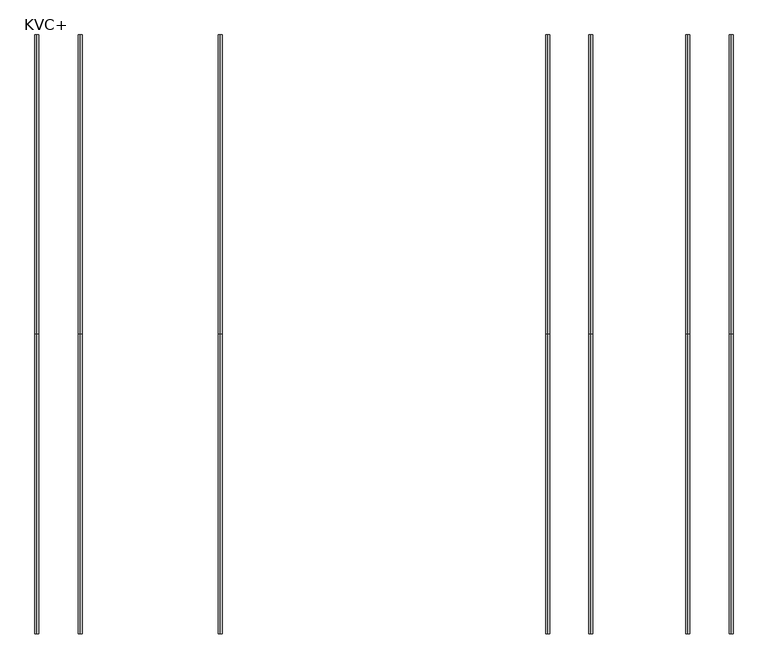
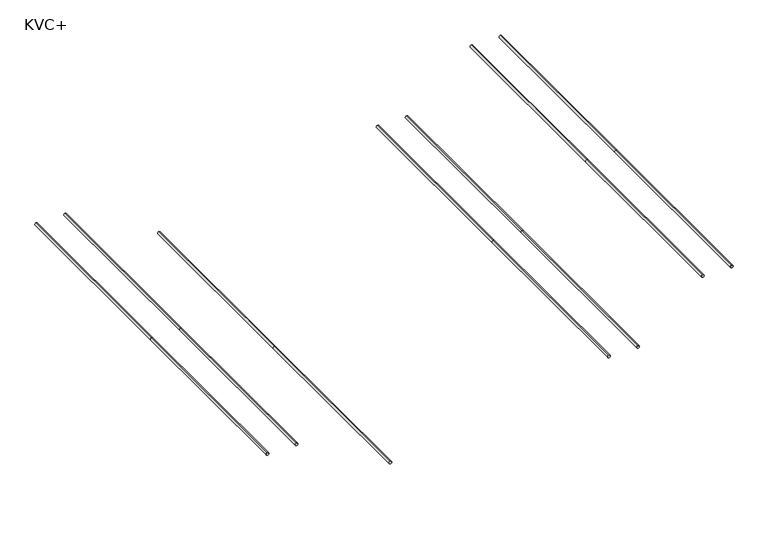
"""IFC4 building model written with IfcOpenShell, lengths in millimetres: fastener geometry, ACINOXplus_Typenreihe_KV : KVC+."""

from ifc_helpers import new_model, si_unit, frame, origin, place, context, project, spatial, circle_curve, source, transform, mapped, element, save
from ifc_brep_helpers import plane_surface, cylinder_surface, advanced_brep


def kvc_34c26883(model_context):
    return source(origin(), model_context, "Body", "AdvancedBrep", [
        advanced_brep(
        [(-245.0, -448.5714286, -165.0), (-245.0, -448.5714286, -159.0), (-245.0, 0.0, -165.0), (-245.0, 0.0, -159.0), (-245.0, 448.5714286, -165.0), (-245.0, 448.5714286, -159.0)],
        [
            (0, 1, circle_curve(frame((-245.0, -448.5714286, -162.0), z_axis=(0.0, -1.0, 0.0), x_axis=(0.0, 0.0, 1.0)), 3.0)),
            (1, 0, circle_curve(frame((-245.0, -448.5714286, -162.0), z_axis=(0.0, -1.0, 0.0), x_axis=(0.0, 0.0, 1.0)), 3.0)),
            (0, 2),
            (2, 3, circle_curve(frame((-245.0, 0.0, -162.0), z_axis=(0.0, -1.0, 0.0), x_axis=(0.0, 0.0, 1.0)), 3.0)),
            (3, 1),
            (3, 2, circle_curve(frame((-245.0, 0.0, -162.0), z_axis=(0.0, -1.0, 0.0), x_axis=(0.0, 0.0, 1.0)), 3.0)),
            (4, 5, circle_curve(frame((-245.0, 448.5714286, -162.0), z_axis=(0.0, 1.0, 0.0), x_axis=(0.0, 0.0, 1.0)), 3.0)),
            (5, 4, circle_curve(frame((-245.0, 448.5714286, -162.0), z_axis=(0.0, 1.0, 0.0), x_axis=(0.0, 0.0, 1.0)), 3.0)),
            (2, 4),
            (5, 3),
        ],
        [
            plane_surface(frame((-245.0, -448.5714286, -162.0), z_axis=(0.0, -1.0, 0.0), x_axis=(1.0, 0.0, 0.0))),
            cylinder_surface(frame((-245.0, -448.5714286, -162.0), z_axis=(0.0, -1.0, 0.0), x_axis=(0.0, 0.0, 1.0)), 3.0),
            plane_surface(frame((-245.0, 448.5714286, -162.0), z_axis=(0.0, 1.0, 0.0), x_axis=(1.0, 0.0, 0.0))),
            cylinder_surface(frame((-245.0, 0.0, -162.0), z_axis=(0.0, -1.0, 0.0), x_axis=(0.0, 0.0, 1.0)), 3.0),
        ],
        [
            (0, [[1, 2]]),
            (1, [[-1, 3, 4, 5]]),
            (1, [[-2, -5, 6, -3]]),
            (2, [[7, 8]]),
            (3, [[-4, 9, -8, 10]]),
            (3, [[-6, -10, -7, -9]]),
        ],
    ),
        advanced_brep(
        [(245.0, -448.5714286, -85.0), (245.0, -448.5714286, -79.0), (245.0, 0.0, -85.0), (245.0, 0.0, -79.0), (245.0, 448.5714286, -85.0), (245.0, 448.5714286, -79.0)],
        [
            (0, 1, circle_curve(frame((245.0, -448.5714286, -82.0), z_axis=(0.0, -1.0, 0.0), x_axis=(0.0, 0.0, 1.0)), 3.0)),
            (1, 0, circle_curve(frame((245.0, -448.5714286, -82.0), z_axis=(0.0, -1.0, 0.0), x_axis=(0.0, 0.0, 1.0)), 3.0)),
            (0, 2),
            (2, 3, circle_curve(frame((245.0, 0.0, -82.0), z_axis=(0.0, -1.0, 0.0), x_axis=(0.0, 0.0, 1.0)), 3.0)),
            (3, 1),
            (3, 2, circle_curve(frame((245.0, 0.0, -82.0), z_axis=(0.0, -1.0, 0.0), x_axis=(0.0, 0.0, 1.0)), 3.0)),
            (4, 5, circle_curve(frame((245.0, 448.5714286, -82.0), z_axis=(0.0, 1.0, 0.0), x_axis=(0.0, 0.0, 1.0)), 3.0)),
            (5, 4, circle_curve(frame((245.0, 448.5714286, -82.0), z_axis=(0.0, 1.0, 0.0), x_axis=(0.0, 0.0, 1.0)), 3.0)),
            (2, 4),
            (5, 3),
        ],
        [
            plane_surface(frame((245.0, -448.5714286, -82.0), z_axis=(0.0, -1.0, 0.0), x_axis=(1.0, 0.0, 0.0))),
            cylinder_surface(frame((245.0, -448.5714286, -82.0), z_axis=(0.0, -1.0, 0.0), x_axis=(0.0, 0.0, 1.0)), 3.0),
            plane_surface(frame((245.0, 448.5714286, -82.0), z_axis=(0.0, 1.0, 0.0), x_axis=(1.0, 0.0, 0.0))),
            cylinder_surface(frame((245.0, 0.0, -82.0), z_axis=(0.0, -1.0, 0.0), x_axis=(0.0, 0.0, 1.0)), 3.0),
        ],
        [
            (0, [[1, 2]]),
            (1, [[-1, 3, 4, 5]]),
            (1, [[-2, -5, 6, -3]]),
            (2, [[7, 8]]),
            (3, [[-4, 9, -8, 10]]),
            (3, [[-6, -10, -7, -9]]),
        ],
    ),
        advanced_brep(
        [(310.0, -448.5714286, -85.0), (310.0, -448.5714286, -79.0), (310.0, 0.0, -85.0), (310.0, 0.0, -79.0), (310.0, 448.5714286, -85.0), (310.0, 448.5714286, -79.0)],
        [
            (0, 1, circle_curve(frame((310.0, -448.5714286, -82.0), z_axis=(0.0, -1.0, 0.0), x_axis=(0.0, 0.0, 1.0)), 3.0)),
            (1, 0, circle_curve(frame((310.0, -448.5714286, -82.0), z_axis=(0.0, -1.0, 0.0), x_axis=(0.0, 0.0, 1.0)), 3.0)),
            (0, 2),
            (2, 3, circle_curve(frame((310.0, 0.0, -82.0), z_axis=(0.0, -1.0, 0.0), x_axis=(0.0, 0.0, 1.0)), 3.0)),
            (3, 1),
            (3, 2, circle_curve(frame((310.0, 0.0, -82.0), z_axis=(0.0, -1.0, 0.0), x_axis=(0.0, 0.0, 1.0)), 3.0)),
            (4, 5, circle_curve(frame((310.0, 448.5714286, -82.0), z_axis=(0.0, 1.0, 0.0), x_axis=(0.0, 0.0, 1.0)), 3.0)),
            (5, 4, circle_curve(frame((310.0, 448.5714286, -82.0), z_axis=(0.0, 1.0, 0.0), x_axis=(0.0, 0.0, 1.0)), 3.0)),
            (2, 4),
            (5, 3),
        ],
        [
            plane_surface(frame((310.0, -448.5714286, -82.0), z_axis=(0.0, -1.0, 0.0), x_axis=(1.0, 0.0, 0.0))),
            cylinder_surface(frame((310.0, -448.5714286, -82.0), z_axis=(0.0, -1.0, 0.0), x_axis=(0.0, 0.0, 1.0)), 3.0),
            plane_surface(frame((310.0, 448.5714286, -82.0), z_axis=(0.0, 1.0, 0.0), x_axis=(1.0, 0.0, 0.0))),
            cylinder_surface(frame((310.0, 0.0, -82.0), z_axis=(0.0, -1.0, 0.0), x_axis=(0.0, 0.0, 1.0)), 3.0),
        ],
        [
            (0, [[1, 2]]),
            (1, [[-1, 3, 4, 5]]),
            (1, [[-2, -5, 6, -3]]),
            (2, [[7, 8]]),
            (3, [[-4, 9, -8, 10]]),
            (3, [[-6, -10, -7, -9]]),
        ],
    ),
        advanced_brep(
        [(455.0, -448.5714286, 32.0), (455.0, -448.5714286, 38.0), (455.0, 0.0, 32.0), (455.0, 0.0, 38.0), (455.0, 448.5714286, 32.0), (455.0, 448.5714286, 38.0)],
        [
            (0, 1, circle_curve(frame((455.0, -448.5714286, 35.0), z_axis=(0.0, -1.0, 0.0), x_axis=(0.0, 0.0, 1.0)), 3.0)),
            (1, 0, circle_curve(frame((455.0, -448.5714286, 35.0), z_axis=(0.0, -1.0, 0.0), x_axis=(0.0, 0.0, 1.0)), 3.0)),
            (0, 2),
            (2, 3, circle_curve(frame((455.0, 0.0, 35.0), z_axis=(0.0, -1.0, 0.0), x_axis=(0.0, 0.0, 1.0)), 3.0)),
            (3, 1),
            (3, 2, circle_curve(frame((455.0, 0.0, 35.0), z_axis=(0.0, -1.0, 0.0), x_axis=(0.0, 0.0, 1.0)), 3.0)),
            (4, 5, circle_curve(frame((455.0, 448.5714286, 35.0), z_axis=(0.0, 1.0, 0.0), x_axis=(0.0, 0.0, 1.0)), 3.0)),
            (5, 4, circle_curve(frame((455.0, 448.5714286, 35.0), z_axis=(0.0, 1.0, 0.0), x_axis=(0.0, 0.0, 1.0)), 3.0)),
            (2, 4),
            (5, 3),
        ],
        [
            plane_surface(frame((455.0, -448.5714286, 35.0), z_axis=(0.0, -1.0, 0.0), x_axis=(1.0, 0.0, 0.0))),
            cylinder_surface(frame((455.0, -448.5714286, 35.0), z_axis=(0.0, -1.0, 0.0), x_axis=(0.0, 0.0, 1.0)), 3.0),
            plane_surface(frame((455.0, 448.5714286, 35.0), z_axis=(0.0, 1.0, 0.0), x_axis=(1.0, 0.0, 0.0))),
            cylinder_surface(frame((455.0, 0.0, 35.0), z_axis=(0.0, -1.0, 0.0), x_axis=(0.0, 0.0, 1.0)), 3.0),
        ],
        [
            (0, [[1, 2]]),
            (1, [[-1, 3, 4, 5]]),
            (1, [[-2, -5, 6, -3]]),
            (2, [[7, 8]]),
            (3, [[-4, 9, -8, 10]]),
            (3, [[-6, -10, -7, -9]]),
        ],
    ),
        advanced_brep(
        [(520.0, -448.5714286, 32.0), (520.0, -448.5714286, 38.0), (520.0, 0.0, 32.0), (520.0, 0.0, 38.0), (520.0, 448.5714286, 32.0), (520.0, 448.5714286, 38.0)],
        [
            (0, 1, circle_curve(frame((520.0, -448.5714286, 35.0), z_axis=(0.0, -1.0, 0.0), x_axis=(0.0, 0.0, 1.0)), 3.0)),
            (1, 0, circle_curve(frame((520.0, -448.5714286, 35.0), z_axis=(0.0, -1.0, 0.0), x_axis=(0.0, 0.0, 1.0)), 3.0)),
            (0, 2),
            (2, 3, circle_curve(frame((520.0, 0.0, 35.0), z_axis=(0.0, -1.0, 0.0), x_axis=(0.0, 0.0, 1.0)), 3.0)),
            (3, 1),
            (3, 2, circle_curve(frame((520.0, 0.0, 35.0), z_axis=(0.0, -1.0, 0.0), x_axis=(0.0, 0.0, 1.0)), 3.0)),
            (4, 5, circle_curve(frame((520.0, 448.5714286, 35.0), z_axis=(0.0, 1.0, 0.0), x_axis=(0.0, 0.0, 1.0)), 3.0)),
            (5, 4, circle_curve(frame((520.0, 448.5714286, 35.0), z_axis=(0.0, 1.0, 0.0), x_axis=(0.0, 0.0, 1.0)), 3.0)),
            (2, 4),
            (5, 3),
        ],
        [
            plane_surface(frame((520.0, -448.5714286, 35.0), z_axis=(0.0, -1.0, 0.0), x_axis=(1.0, 0.0, 0.0))),
            cylinder_surface(frame((520.0, -448.5714286, 35.0), z_axis=(0.0, -1.0, 0.0), x_axis=(0.0, 0.0, 1.0)), 3.0),
            plane_surface(frame((520.0, 448.5714286, 35.0), z_axis=(0.0, 1.0, 0.0), x_axis=(1.0, 0.0, 0.0))),
            cylinder_surface(frame((520.0, 0.0, 35.0), z_axis=(0.0, -1.0, 0.0), x_axis=(0.0, 0.0, 1.0)), 3.0),
        ],
        [
            (0, [[1, 2]]),
            (1, [[-1, 3, 4, 5]]),
            (1, [[-2, -5, 6, -3]]),
            (2, [[7, 8]]),
            (3, [[-4, 9, -8, 10]]),
            (3, [[-6, -10, -7, -9]]),
        ],
    ),
        advanced_brep(
        [(-520.0, -448.5714286, -48.0), (-520.0, -448.5714286, -42.0), (-520.0, 0.0, -48.0), (-520.0, 0.0, -42.0), (-520.0, 448.5714286, -48.0), (-520.0, 448.5714286, -42.0)],
        [
            (0, 1, circle_curve(frame((-520.0, -448.5714286, -45.0), z_axis=(0.0, -1.0, 0.0), x_axis=(0.0, 0.0, 1.0)), 3.0)),
            (1, 0, circle_curve(frame((-520.0, -448.5714286, -45.0), z_axis=(0.0, -1.0, 0.0), x_axis=(0.0, 0.0, 1.0)), 3.0)),
            (0, 2),
            (2, 3, circle_curve(frame((-520.0, 0.0, -45.0), z_axis=(0.0, -1.0, 0.0), x_axis=(0.0, 0.0, 1.0)), 3.0)),
            (3, 1),
            (3, 2, circle_curve(frame((-520.0, 0.0, -45.0), z_axis=(0.0, -1.0, 0.0), x_axis=(0.0, 0.0, 1.0)), 3.0)),
            (4, 5, circle_curve(frame((-520.0, 448.5714286, -45.0), z_axis=(0.0, 1.0, 0.0), x_axis=(0.0, 0.0, 1.0)), 3.0)),
            (5, 4, circle_curve(frame((-520.0, 448.5714286, -45.0), z_axis=(0.0, 1.0, 0.0), x_axis=(0.0, 0.0, 1.0)), 3.0)),
            (2, 4),
            (5, 3),
        ],
        [
            plane_surface(frame((-520.0, -448.5714286, -45.0), z_axis=(0.0, -1.0, 0.0), x_axis=(1.0, 0.0, 0.0))),
            cylinder_surface(frame((-520.0, -448.5714286, -45.0), z_axis=(0.0, -1.0, 0.0), x_axis=(0.0, 0.0, 1.0)), 3.0),
            plane_surface(frame((-520.0, 448.5714286, -45.0), z_axis=(0.0, 1.0, 0.0), x_axis=(1.0, 0.0, 0.0))),
            cylinder_surface(frame((-520.0, 0.0, -45.0), z_axis=(0.0, -1.0, 0.0), x_axis=(0.0, 0.0, 1.0)), 3.0),
        ],
        [
            (0, [[1, 2]]),
            (1, [[-1, 3, 4, 5]]),
            (1, [[-2, -5, 6, -3]]),
            (2, [[7, 8]]),
            (3, [[-4, 9, -8, 10]]),
            (3, [[-6, -10, -7, -9]]),
        ],
    ),
        advanced_brep(
        [(-455.0, -448.5714286, -48.0), (-455.0, -448.5714286, -42.0), (-455.0, 0.0, -48.0), (-455.0, 0.0, -42.0), (-455.0, 448.5714286, -48.0), (-455.0, 448.5714286, -42.0)],
        [
            (0, 1, circle_curve(frame((-455.0, -448.5714286, -45.0), z_axis=(0.0, -1.0, 0.0), x_axis=(0.0, 0.0, 1.0)), 3.0)),
            (1, 0, circle_curve(frame((-455.0, -448.5714286, -45.0), z_axis=(0.0, -1.0, 0.0), x_axis=(0.0, 0.0, 1.0)), 3.0)),
            (0, 2),
            (2, 3, circle_curve(frame((-455.0, 0.0, -45.0), z_axis=(0.0, -1.0, 0.0), x_axis=(0.0, 0.0, 1.0)), 3.0)),
            (3, 1),
            (3, 2, circle_curve(frame((-455.0, 0.0, -45.0), z_axis=(0.0, -1.0, 0.0), x_axis=(0.0, 0.0, 1.0)), 3.0)),
            (4, 5, circle_curve(frame((-455.0, 448.5714286, -45.0), z_axis=(0.0, 1.0, 0.0), x_axis=(0.0, 0.0, 1.0)), 3.0)),
            (5, 4, circle_curve(frame((-455.0, 448.5714286, -45.0), z_axis=(0.0, 1.0, 0.0), x_axis=(0.0, 0.0, 1.0)), 3.0)),
            (2, 4),
            (5, 3),
        ],
        [
            plane_surface(frame((-455.0, -448.5714286, -45.0), z_axis=(0.0, -1.0, 0.0), x_axis=(1.0, 0.0, 0.0))),
            cylinder_surface(frame((-455.0, -448.5714286, -45.0), z_axis=(0.0, -1.0, 0.0), x_axis=(0.0, 0.0, 1.0)), 3.0),
            plane_surface(frame((-455.0, 448.5714286, -45.0), z_axis=(0.0, 1.0, 0.0), x_axis=(1.0, 0.0, 0.0))),
            cylinder_surface(frame((-455.0, 0.0, -45.0), z_axis=(0.0, -1.0, 0.0), x_axis=(0.0, 0.0, 1.0)), 3.0),
        ],
        [
            (0, [[1, 2]]),
            (1, [[-1, 3, 4, 5]]),
            (1, [[-2, -5, 6, -3]]),
            (2, [[7, 8]]),
            (3, [[-4, 9, -8, 10]]),
            (3, [[-6, -10, -7, -9]]),
        ],
    ),
    ])


if __name__ == "__main__":
    model = new_model("IFC4")
    model_context = context("Model", 3, world=origin())
    ifc_project = project(units=[si_unit("LENGTHUNIT", "METRE", prefix="MILLI")], contexts=[model_context])
    site = spatial("IfcSite", under=ifc_project)
    building = spatial("IfcBuilding", under=site)
    placement = place(None, origin())
    kvc_shape = kvc_34c26883(model_context)
    element("IfcFastener", 1, ObjectType="ACINOXplus_Typenreihe_KV : KVC+", at=placement, inside=building, context=model_context, shape_type="MappedRepresentation", body=[
        mapped(kvc_shape, transform((0.0, 0.0, 0.0), x_axis=(1.0, 0.0, 0.0), y_axis=(0.0, 1.0, 0.0), z_axis=(0.0, 0.0, 1.0))),
    ])
    save(model, "model.ifc")
